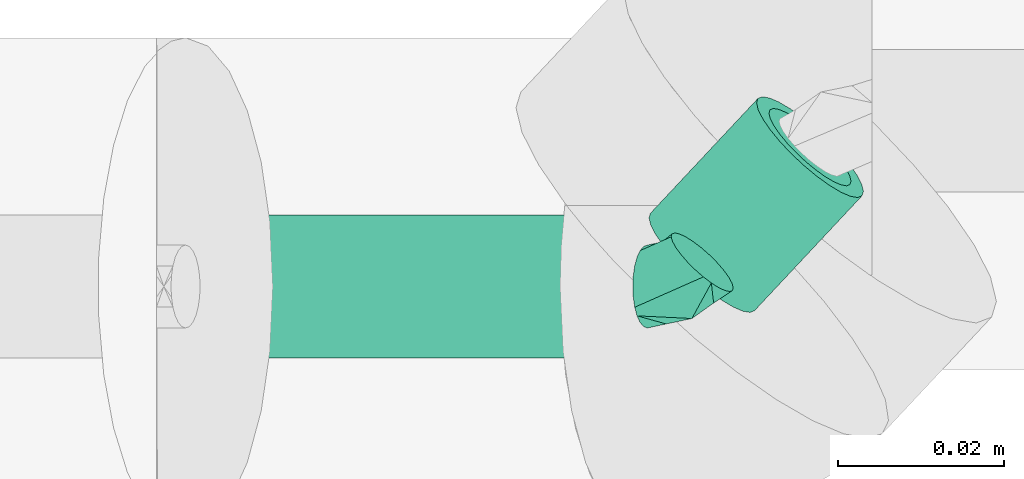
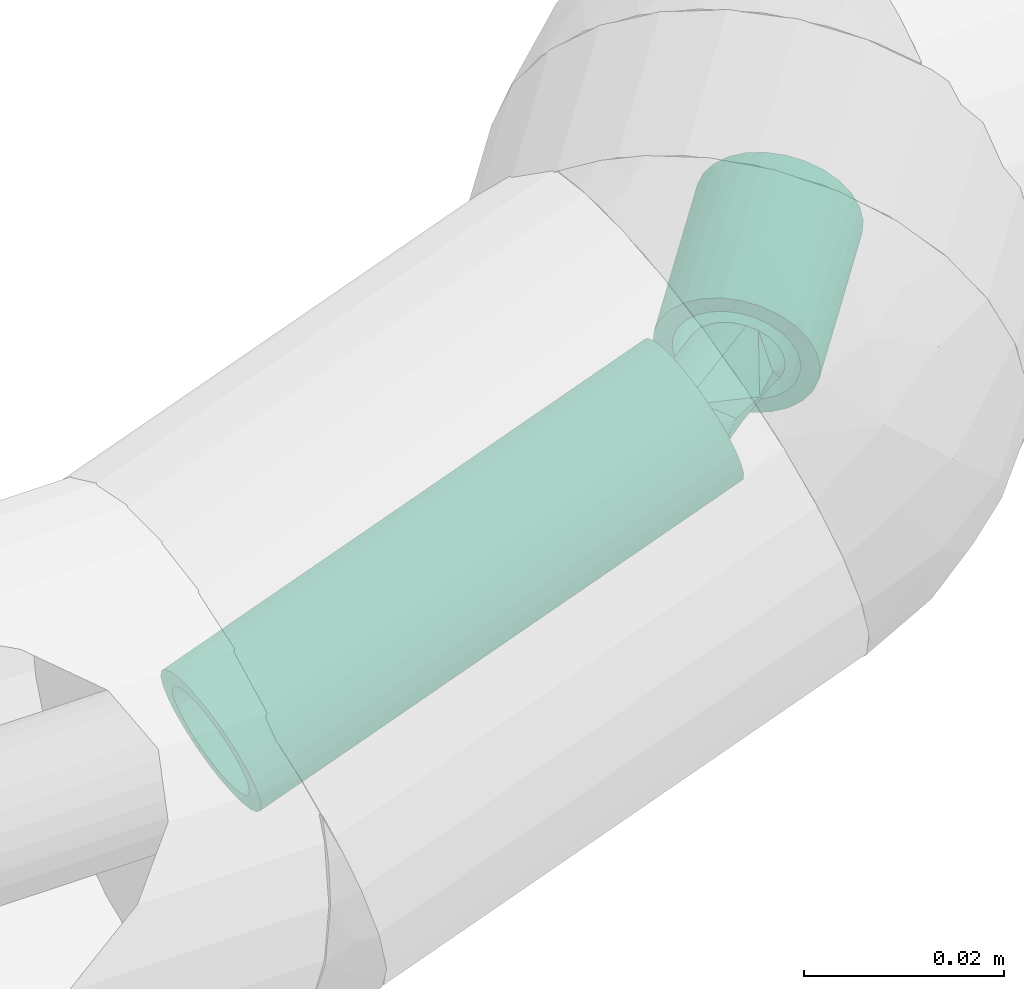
# One storey, part 99 of 156: 2 flow segments, 1 flow fitting.
"""IFC2X3 building model written with IfcOpenShell, lengths in millimetres."""

from ifc_helpers import new_model, entity, si_unit, converted_unit, derived_unit, direction, frame, origin_with_axes, origin_2d_with_axis, place, context, subcontext, project, spatial, hollow_circle, extrude, open_shell, surface_model, source, transform, mapped, type_object, element, save


model = new_model("IFC2X3")

# Units and contexts
model_context = context("Model", 3, precision=0.01, world=frame((0.0, 4.29681676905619e-09, 0.0)), true_north=direction((4.01073788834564e-13, 1.0)))
plan_context = context("Plan", 3, precision=0.01, world=frame((0.0, 4.29681676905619e-09, 0.0)), true_north=direction((4.01073788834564e-13, 1.0)))
body_context = subcontext(model_context, "Body", "Model", "MODEL_VIEW")
ifc_project = project(units=[converted_unit("PLANEANGLEUNIT", "DEGREE", entity("IfcPositiveLengthMeasure", 0.0174532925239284), si_unit("PLANEANGLEUNIT", "RADIAN"), dimensions=[0, 0, 0, 0, 0, 0, 0]), si_unit("AREAUNIT", "SQUARE_METRE"), si_unit("LENGTHUNIT", "METRE", prefix="MILLI"), si_unit("MASSUNIT", "GRAM", prefix="KILO"), si_unit("POWERUNIT", "WATT"), si_unit("PRESSUREUNIT", "PASCAL", prefix="KILO"), si_unit("FORCEUNIT", "NEWTON", prefix="KILO"), si_unit("ELECTRICVOLTAGEUNIT", "VOLT"), si_unit("ELECTRICCURRENTUNIT", "AMPERE"), si_unit("THERMODYNAMICTEMPERATUREUNIT", "DEGREE_CELSIUS"), si_unit("TIMEUNIT", "SECOND"), si_unit("VOLUMEUNIT", "CUBIC_METRE"), derived_unit("LINEARVELOCITYUNIT", [(si_unit("LENGTHUNIT", "METRE"), 1), (si_unit("TIMEUNIT", "SECOND"), -1)]), derived_unit("VOLUMETRICFLOWRATEUNIT", [(si_unit("VOLUMEUNIT", "CUBIC_METRE"), 1), (si_unit("TIMEUNIT", "SECOND"), -1)]), derived_unit("THERMALTRANSMITTANCEUNIT", [(si_unit("POWERUNIT", "WATT"), 1), (si_unit("THERMODYNAMICTEMPERATUREUNIT", "KELVIN"), -1), (si_unit("AREAUNIT", "SQUARE_METRE"), -1)]), derived_unit("SOUNDPRESSUREUNIT", [(si_unit("PRESSUREUNIT", "PASCAL"), 1)])], contexts=[model_context, plan_context])

# Site, building, storey
site_placement = place(None, frame((0.0, -4.29681676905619e-09, 0.0), z_axis=(0.0, 0.0, 1.0), x_axis=(1.0, 0.0, 0.0)))
site = spatial("IfcSite", under=ifc_project, at=site_placement, CompositionType="ELEMENT")
building_placement = place(site_placement, frame((0.0, 4.29681676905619e-09, 0.0), z_axis=(0.0, 0.0, 1.0), x_axis=(1.0, 0.0, 0.0)))
building = spatial("IfcBuilding", under=site, at=building_placement, Name="mc-building", CompositionType="ELEMENT")
storey_placement = place(building_placement, frame((0.0, 0.0, 205200.0), z_axis=(0.0, 0.0, 1.0), x_axis=(1.0, 0.0, 0.0)))
storey = spatial("IfcBuildingStorey", under=building, at=storey_placement, Name="Nivå D + 1,2 m", CompositionType="ELEMENT", Elevation=205200.0)

# Flow fitting
pipe_fitting_type = type_object("IfcPipeFittingType", Name="magi_pipe_elbow_short_001", PredefinedType="BEND")
shared_shape_1 = source(origin_with_axes(), body_context, "Body", "SurfaceModel", [
    surface_model("IfcShellBasedSurfaceModel", [(-4.14214, 0.0, -5.0), (-4.14214, -3.53553, -3.53553), (-4.14214, 1.2941, -4.82963), (-4.14214, 2.5, -4.33013), (-4.14214, 3.53553, -3.53553), (-4.14214, 4.82963, -1.2941), (-4.14214, 4.33013, -2.5), (-4.14214, -5.0, 0.0), (-4.14214, 4.33013, 2.5), (-4.14214, -2.5, -4.33013), (-4.14214, -1.2941, -4.82963), (-4.14214, -4.82963, -1.2941), (-4.14214, -4.33013, -2.5), (-4.14214, 5.0, 0.0), (-4.14214, 4.82963, 1.2941), (-4.14214, 1.2941, 4.82963), (-4.14214, 2.5, 4.33013), (-4.14214, 3.53553, 3.53553), (-4.14214, -3.53553, 3.53553), (-4.14214, -4.82963, 1.2941), (-4.14214, -4.33013, 2.5), (-4.14214, -2.5, 4.33013), (-4.14214, -1.2941, 4.82963), (-4.14214, 0.0, 5.0), (2.01387, 3.844, -4.82963), (5.42893, 0.42893, -3.53553), (2.92893, 2.92893, -5.0), (0.42893, 5.42893, -3.53553), (1.16117, 4.6967, -4.33013), (-0.13293, 5.99079, -2.5), (-0.48613, 6.344, -1.2941), (-0.6066, 6.46447, 0.0), (6.46447, -0.6066, 0.0), (3.844, 2.01387, -4.82963), (4.6967, 1.16117, -4.33013), (5.99079, -0.13293, -2.5), (6.344, -0.48613, -1.2941), (-0.48613, 6.344, 1.2941), (-0.13293, 5.99079, 2.5), (5.42893, 0.42893, 3.53553), (1.16117, 4.6967, 4.33013), (2.01387, 3.844, 4.82963), (0.42893, 5.42893, 3.53553), (4.6967, 1.16117, 4.33013), (5.99079, -0.13293, 2.5), (6.344, -0.48613, 1.2941), (3.844, 2.01387, 4.82963), (2.92893, 2.92893, 5.0), (1.59812, -3.85819, 0.0), (-1.7059, -4.5154, 0.0), (-2.22872, 5.3806, 0.0), (4.39912, -1.98662, 0.0)], [open_shell([[[0, 1, 2]], [[3, 2, 4]], [[5, 6, 4]], [[4, 2, 7]], [[4, 7, 8]], [[9, 1, 10]], [[1, 0, 10]], [[11, 7, 12]], [[1, 12, 7]], [[1, 7, 2]], [[13, 5, 4]], [[8, 14, 13]], [[7, 15, 8]], [[8, 15, 16]], [[17, 8, 16]], [[18, 15, 7]], [[19, 20, 7]], [[7, 20, 18]], [[21, 22, 18]], [[22, 15, 18]], [[15, 22, 23]], [[8, 13, 4]], [[24, 25, 26]], [[27, 24, 28]], [[27, 29, 30]], [[25, 24, 27]], [[31, 32, 27]], [[33, 25, 34]], [[33, 26, 25]], [[35, 32, 36]], [[32, 35, 25]], [[27, 32, 25]], [[27, 30, 31]], [[31, 37, 38]], [[39, 31, 38]], [[40, 41, 38]], [[40, 38, 42]], [[43, 38, 41]], [[39, 44, 32]], [[45, 32, 44]], [[41, 46, 43]], [[43, 39, 38]], [[41, 47, 46]], [[32, 31, 39]], [[21, 18, 48]], [[20, 49, 18]], [[21, 46, 22]], [[47, 15, 23]], [[47, 23, 22]], [[19, 49, 20]], [[42, 17, 16]], [[38, 8, 17]], [[14, 8, 50]], [[50, 13, 14]], [[50, 8, 38]], [[41, 16, 15]], [[19, 7, 49]], [[48, 18, 49]], [[43, 46, 21]], [[43, 48, 39]], [[46, 47, 22]], [[51, 44, 39]], [[48, 51, 39]], [[45, 51, 32]], [[38, 37, 50]], [[31, 50, 37]], [[44, 51, 45]], [[41, 15, 47]], [[16, 40, 42]], [[38, 17, 42]], [[41, 40, 16]], [[21, 48, 43]], [[12, 49, 11]], [[26, 0, 2]], [[26, 10, 0]], [[29, 4, 6]], [[4, 27, 3]], [[5, 50, 6]], [[24, 2, 3]], [[49, 7, 11]], [[12, 1, 49]], [[48, 9, 34]], [[48, 49, 1]], [[48, 1, 9]], [[33, 9, 10]], [[5, 13, 50]], [[50, 31, 30]], [[50, 30, 29]], [[3, 27, 28]], [[3, 28, 24]], [[4, 29, 27]], [[24, 26, 2]], [[9, 33, 34]], [[36, 32, 51]], [[34, 25, 48]], [[35, 36, 51]], [[48, 25, 51]], [[51, 25, 35]], [[33, 10, 26]], [[29, 6, 50]]])]),
])
flow_fitting_placement = place(storey_placement, frame((332718.77342, 459031.28638, 4221.29798), z_axis=(-0.351123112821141, 0.0, 0.936329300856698), x_axis=(0.936329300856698, 0.0, 0.351123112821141)))
element("IfcFlowFitting", 1, at=flow_fitting_placement, inside=storey, type_object=pipe_fitting_type, Name="magi_pipe_elbow_short_001", context=body_context, shape_type="MappedRepresentation", body=[
    mapped(shared_shape_1, transform((0.0, 0.0, 0.0), scale=1.0)),
])

# Flow segments
pipe_segment_type = type_object("IfcPipeSegmentType", Name="Stålrør normaltykke", PredefinedType="RIGIDSEGMENT")
shared_shape_2 = source(origin_with_axes(), body_context, "Body", "SweptSolid", [
    extrude(hollow_circle(Radius=8.6, WallThickness=2.0, at=origin_2d_with_axis()), frame((0.0, 0.0, 0.0), z_axis=(1.0, 0.0, 0.0), x_axis=(0.0, 1.0, 0.0)), (0.0, 0.0, 1.0), 59.5),
])
flow_segment_1_placement = place(storey_placement, frame((332714.89501, 459031.28638, 4219.84357), z_axis=(-0.351123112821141, 0.0, 0.936329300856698), x_axis=(-0.936329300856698, 0.0, -0.351123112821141)))
element("IfcFlowSegment", 2, at=flow_segment_1_placement, inside=storey, type_object=pipe_segment_type, Name="Stålrør normaltykke", context=body_context, shape_type="MappedRepresentation", body=[
    mapped(shared_shape_2, transform((0.0, 0.0, 0.0), scale=1.0)),
])
shared_shape_3 = source(origin_with_axes(), body_context, "Body", "SweptSolid", [
    extrude(hollow_circle(Radius=8.6, WallThickness=2.0, at=origin_2d_with_axis()), frame((0.0, 0.0, 0.0), z_axis=(1.0, 0.0, 0.0), x_axis=(0.0, 1.0, 0.0)), (0.0, 0.0, 1.0), 19.6),
])
flow_segment_2_placement = place(storey_placement, frame((332734.51468, 459048.09805, 4227.20095), z_axis=(0.169696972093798, 0.181236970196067, -0.968687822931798), x_axis=(-0.662084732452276, -0.707106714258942, -0.248281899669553)))
element("IfcFlowSegment", 3, at=flow_segment_2_placement, inside=storey, type_object=pipe_segment_type, Name="Stålrør normaltykke", context=body_context, shape_type="MappedRepresentation", body=[
    mapped(shared_shape_3, transform((0.0, 0.0, 0.0), scale=1.0)),
])

save(model, "model.ifc")
